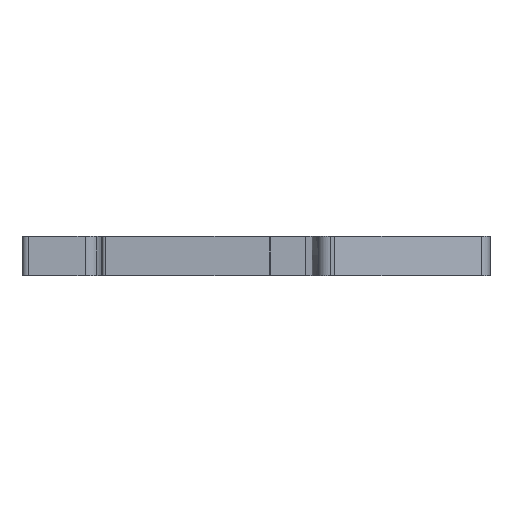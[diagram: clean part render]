
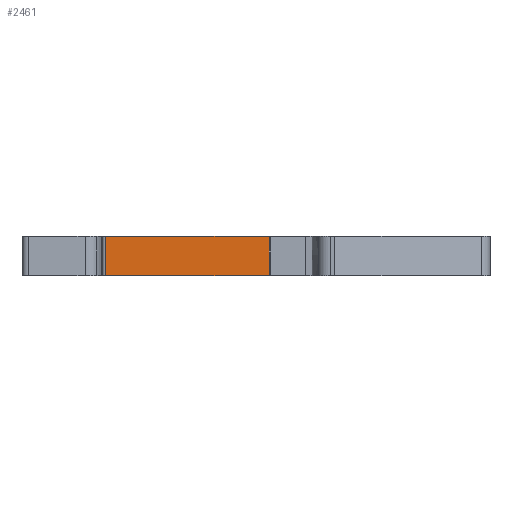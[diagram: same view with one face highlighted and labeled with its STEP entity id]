
A CAD part, front view. The second image highlights one B-rep face of the part: STEP entity #2461.
In plain terms, the highlighted planar face has unit normal (0, -1, 0).
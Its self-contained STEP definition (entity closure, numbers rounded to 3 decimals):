
#931=CARTESIAN_POINT('',(-15.503,-17.458,12.2));
#932=VERTEX_POINT('',#931);
#940=CARTESIAN_POINT('',(9.75,-17.458,12.2));
#941=VERTEX_POINT('',#940);
#942=CARTESIAN_POINT('',(9.75,-17.458,12.2));
#943=DIRECTION('',(-1.,0.,-0.));
#944=VECTOR('',#943,25.253);
#945=LINE('',#942,#944);
#946=EDGE_CURVE('',#941,#932,#945,.T.);
#1097=CARTESIAN_POINT('',(9.75,-17.458,6.05));
#1098=VERTEX_POINT('',#1097);
#1106=CARTESIAN_POINT('',(-15.503,-17.458,6.05));
#1107=VERTEX_POINT('',#1106);
#1108=CARTESIAN_POINT('',(-15.503,-17.458,6.05));
#1109=DIRECTION('',(1.,-0.,0.));
#1110=VECTOR('',#1109,25.253);
#1111=LINE('',#1108,#1110);
#1112=EDGE_CURVE('',#1107,#1098,#1111,.T.);
#2399=CARTESIAN_POINT('',(9.75,-17.458,11.375));
#2400=VERTEX_POINT('',#2399);
#2401=CARTESIAN_POINT('',(9.75,-17.458,12.2));
#2402=DIRECTION('',(0.,0.,-1.));
#2403=VECTOR('',#2402,0.825);
#2404=LINE('',#2401,#2403);
#2405=EDGE_CURVE('',#941,#2400,#2404,.T.);
#2407=CARTESIAN_POINT('',(9.75,-17.458,9.075));
#2408=VERTEX_POINT('',#2407);
#2409=CARTESIAN_POINT('',(9.75,-17.458,9.075));
#2410=DIRECTION('',(-0.,-0.,1.));
#2411=VECTOR('',#2410,2.3);
#2412=LINE('',#2409,#2411);
#2413=EDGE_CURVE('',#2408,#2400,#2412,.T.);
#2415=CARTESIAN_POINT('',(9.75,-17.458,9.075));
#2416=DIRECTION('',(0.,0.,-1.));
#2417=VECTOR('',#2416,3.025);
#2418=LINE('',#2415,#2417);
#2419=EDGE_CURVE('',#2408,#1098,#2418,.T.);
#2427=CARTESIAN_POINT('',(-15.372,-17.458,11.8));
#2428=DIRECTION('',(-0.,-1.,-0.));
#2429=DIRECTION('',(-1.,0.,-0.));
#2430=AXIS2_PLACEMENT_3D('',#2427,#2428,#2429);
#2431=PLANE('',#2430);
#2432=CARTESIAN_POINT('',(-15.503,-17.458,10.801));
#2433=VERTEX_POINT('',#2432);
#2434=CARTESIAN_POINT('',(-15.503,-17.458,10.801));
#2435=DIRECTION('',(-0.,-0.,1.));
#2436=VECTOR('',#2435,1.399);
#2437=LINE('',#2434,#2436);
#2438=EDGE_CURVE('',#2433,#932,#2437,.T.);
#2439=ORIENTED_EDGE('',*,*,#2438,.F.);
#2440=CARTESIAN_POINT('',(-15.503,-17.458,9.386));
#2441=VERTEX_POINT('',#2440);
#2442=CARTESIAN_POINT('',(-15.503,-17.458,9.386));
#2443=DIRECTION('',(-0.,-0.,1.));
#2444=VECTOR('',#2443,1.415);
#2445=LINE('',#2442,#2444);
#2446=EDGE_CURVE('',#2441,#2433,#2445,.T.);
#2447=ORIENTED_EDGE('',*,*,#2446,.F.);
#2448=CARTESIAN_POINT('',(-15.503,-17.458,6.05));
#2449=DIRECTION('',(-0.,-0.,1.));
#2450=VECTOR('',#2449,3.336);
#2451=LINE('',#2448,#2450);
#2452=EDGE_CURVE('',#1107,#2441,#2451,.T.);
#2453=ORIENTED_EDGE('',*,*,#2452,.F.);
#2454=ORIENTED_EDGE('',*,*,#1112,.T.);
#2455=ORIENTED_EDGE('',*,*,#2419,.F.);
#2456=ORIENTED_EDGE('',*,*,#2413,.T.);
#2457=ORIENTED_EDGE('',*,*,#2405,.F.);
#2458=ORIENTED_EDGE('',*,*,#946,.T.);
#2459=EDGE_LOOP('',(#2439,#2447,#2453,#2454,#2455,#2456,#2457,#2458));
#2460=FACE_BOUND('',#2459,.T.);
#2461=ADVANCED_FACE('',(#2460),#2431,.T.);
